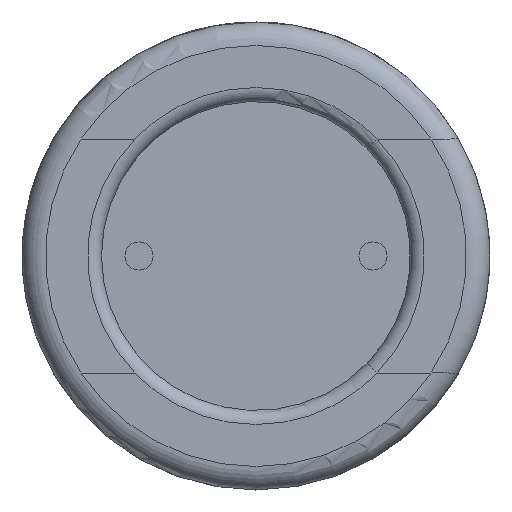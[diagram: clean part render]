
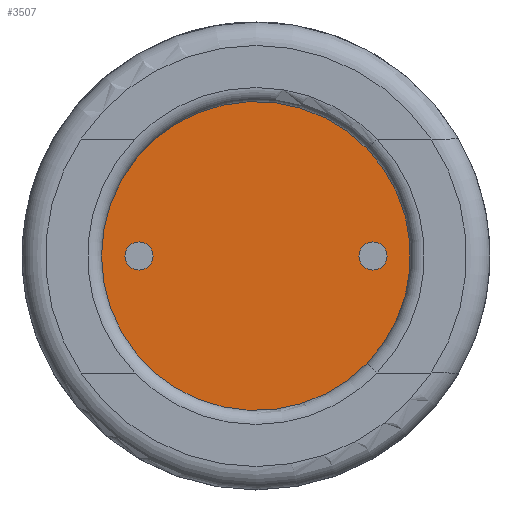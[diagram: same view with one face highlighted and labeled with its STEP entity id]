
A CAD part, front view. The second image highlights one B-rep face of the part: STEP entity #3507.
In plain terms, the highlighted planar face has unit normal (0, -1, 0).
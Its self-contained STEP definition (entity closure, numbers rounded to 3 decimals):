
#282=PLANE('',#3864);
#366=FACE_OUTER_BOUND('',#501,.T.);
#501=EDGE_LOOP('',(#3138,#3139));
#986=CIRCLE('',#3718,3.3);
#1062=CIRCLE('',#3865,3.3);
#1446=VERTEX_POINT('',#7240);
#1447=VERTEX_POINT('',#7241);
#1943=EDGE_CURVE('',#1446,#1447,#986,.T.);
#2097=EDGE_CURVE('',#1447,#1446,#1062,.T.);
#3138=ORIENTED_EDGE('',*,*,#2097,.T.);
#3139=ORIENTED_EDGE('',*,*,#1943,.T.);
#3507=ADVANCED_FACE('',(#366),#282,.T.);
#3718=AXIS2_PLACEMENT_3D('',#7242,#4373,#4374);
#3864=AXIS2_PLACEMENT_3D('',#8402,#4686,#4687);
#3865=AXIS2_PLACEMENT_3D('',#8403,#4688,#4689);
#4373=DIRECTION('center_axis',(0.,-1.,0.));
#4374=DIRECTION('ref_axis',(0.,0.,-1.));
#4686=DIRECTION('center_axis',(0.,-1.,0.));
#4687=DIRECTION('ref_axis',(0.,0.,-1.));
#4688=DIRECTION('center_axis',(0.,-1.,0.));
#4689=DIRECTION('ref_axis',(0.,0.,-1.));
#7240=CARTESIAN_POINT('',(2.375,0.3,2.292));
#7241=CARTESIAN_POINT('',(2.375,0.3,-2.292));
#7242=CARTESIAN_POINT('Origin',(0.,0.3,0.));
#8402=CARTESIAN_POINT('Origin',(0.,0.3,0.));
#8403=CARTESIAN_POINT('Origin',(0.,0.3,0.));
